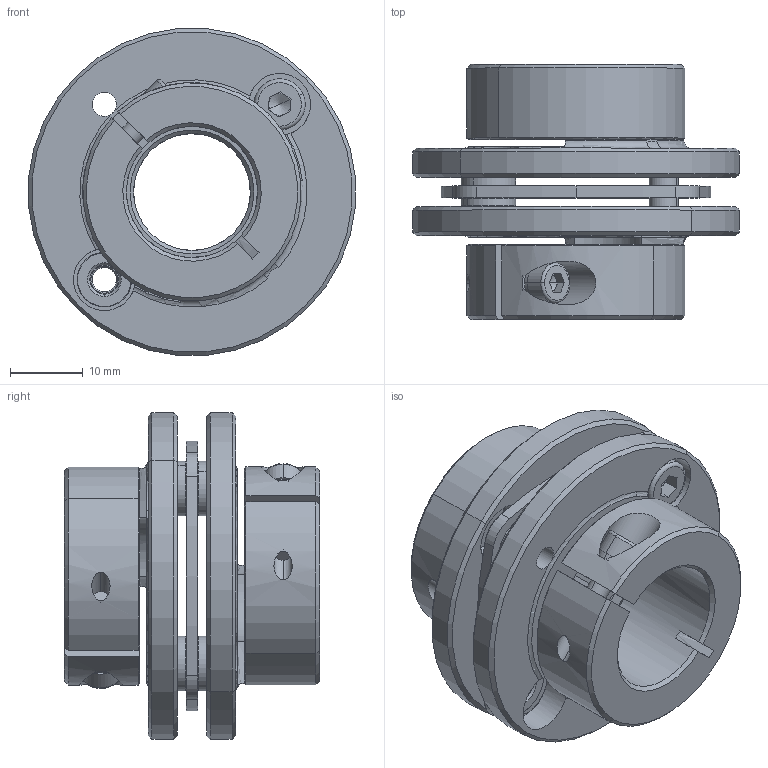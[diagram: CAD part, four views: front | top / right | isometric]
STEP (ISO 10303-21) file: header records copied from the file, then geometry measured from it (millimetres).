
FILE_DESCRIPTION (( 'STEP AP203' ), '1' );
FILE_NAME ('LE1-B-D45L35-16-18.STEP', '2021-11-01T03:20:51', ( '' ), ( '' ), 'SwSTEP 2.0', 'SolidWorks 2018', '' );
FILE_SCHEMA (( 'CONFIG_CONTROL_DESIGN' ));
Length unit declared in the file: millimetre
Products named in the file (1): LE1-B-D45L35-16-18
Bounding box: 44.83 x 35 x 44.83 mm (x, y, z)
Volume: 21489 mm3; surface area: 14695.5 mm2
Topology: 1 solids, 3 shells, 311 faces, 775 edges, 480 vertices
Faces by surface type: cylinder 115, plane 98, cone 82, torus 14, bspline 2
Entity records: 9750 total; most frequent: CARTESIAN_POINT 2009, DIRECTION 1741, ORIENTED_EDGE 1534, EDGE_CURVE 767, AXIS2_PLACEMENT_3D 712, VERTEX_POINT 480, CIRCLE 402, EDGE_LOOP 363
